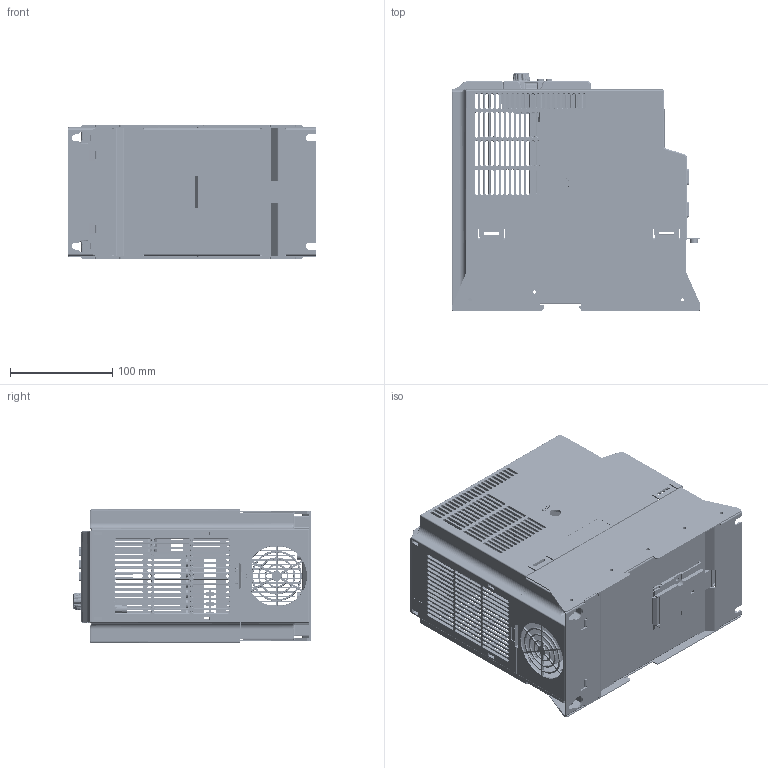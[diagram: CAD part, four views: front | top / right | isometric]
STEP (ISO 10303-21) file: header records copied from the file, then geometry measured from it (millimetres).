
FILE_DESCRIPTION((''),'2;1');
FILE_NAME('VFC5610-7K50-3P4-MNA-XX-NNNNN-N','2023-03-27T16:58:58',('ZUX1XI'),(''),'CREO PARAMETRIC BY PTC INC, 2021072','CREO PARAMETRIC BY PTC INC, 2021072','');
FILE_SCHEMA(('AUTOMOTIVE_DESIGN { 1 0 10303 214 1 1 1 1 }'));
Products named in the file (32): VFCX610-5P5KW__BASE_2_1_1_1; VFCX610-5P5KW_BLACK-PLATE_1_1_1; VFCX610-5P5KW_BASE_1_1_1_1; VFCX610_DIN_COVER_1_1_1_1; VFCX610_DIN_SPRING-PART_1_1_1_1; VFCX610-DIN_1_1_1_1; VFCX610-7P5KW_HEATSINK_1_1_1_1; VFC5610_5K5KW_CASE_RE_1_1_1_1; VFCX610-5P5KW_FAN-COVER_DOWN_1_; VFCX610-5P5KW_FAN_DOWN_1_1_1_1; 00_VFCX610-7P5KW_1_1_1_1; VFCX610-E_HOUSING_1_1_1; VFCX610_5_5_7_5KW_E_HOUSING_1_1; PL_EFC5610_IOCAE_CONVER_2_1_1_1; CPU_CONNECTOR-14P_1_1_1_1; 548190519_1_1_1_1; 1155590000_1_1_1_1; LK_YCP06_1_ASM_1_1_1; 01-IOBACK_CASE_1_1_1_1; 01-IOCASE_1_ASM_1_1_1; 01-IOCASE_1_ASM_1_1; 01_DISPLAYCASE_00_1_1_1_1; LED_00_1_1_1_1; DISPLAY_PCB_00_1_ASM_1_1_1; BACK_CASE1_00_1_1_1_1; R911330333_FOLIE_00_1_1_1_1; BUUTTON_00_1_1_1_1; XUAN_NIU_00_1_1_1_1; 02-DISPLAY-CASE_00_1_ASM_1_1_1; 02-DISPLAY-CASE_00_1_ASM_1_1; VFC5610-7K50-3P4-MNA-XX-NNNNN_1; VFC5610-7K50-3P4-MNA-XX-NNNNN-N
Assembly tree (31 placements, depth 7):
  VFC5610-7K50-3P4-MNA-XX-NNNNN-N
    VFC5610-7K50-3P4-MNA-XX-NNNNN_1
      VFCX610_5_5_7_5KW_E_HOUSING_1_1
        VFCX610-E_HOUSING_1_1_1
          00_VFCX610-7P5KW_1_1_1_1
            VFCX610-5P5KW_BASE_1_1_1_1
              VFCX610-5P5KW__BASE_2_1_1_1
              VFCX610-5P5KW_BLACK-PLATE_1_1_1
            VFCX610-DIN_1_1_1_1
              VFCX610_DIN_COVER_1_1_1_1
              VFCX610_DIN_SPRING-PART_1_1_1_1
            VFCX610-7P5KW_HEATSINK_1_1_1_1
            VFC5610_5K5KW_CASE_RE_1_1_1_1
            VFCX610-5P5KW_FAN_DOWN_1_1_1_1
              VFCX610-5P5KW_FAN-COVER_DOWN_1_
      01-IOCASE_1_ASM_1_1
        01-IOCASE_1_ASM_1_1_1
          PL_EFC5610_IOCAE_CONVER_2_1_1_1
          LK_YCP06_1_ASM_1_1_1
            CPU_CONNECTOR-14P_1_1_1_1
            548190519_1_1_1_1
            1155590000_1_1_1_1
          01-IOBACK_CASE_1_1_1_1
      02-DISPLAY-CASE_00_1_ASM_1_1
        02-DISPLAY-CASE_00_1_ASM_1_1_1
          01_DISPLAYCASE_00_1_1_1_1
          DISPLAY_PCB_00_1_ASM_1_1_1
            LED_00_1_1_1_1
          BACK_CASE1_00_1_1_1_1
          R911330333_FOLIE_00_1_1_1_1
          BUUTTON_00_1_1_1_1
          XUAN_NIU_00_1_1_1_1
Bounding box: 243 x 232.15 x 130 mm (x, y, z)
Volume: 40854.5 mm3; surface area: 932751.7 mm2
Topology: 10 solids, 3941 shells, 8081 faces, 32826 edges, 28703 vertices
Faces by surface type: plane 4217, cylinder 2182, torus 710, bspline 385, cone 383, sphere 148, extrusion 56
Entity records: 537615 total; most frequent: CARTESIAN_POINT 136914, DIRECTION 50636, ORIENTED_EDGE 43793, PRESENTATION_STYLE_ASSIGNMENT 37684, STYLED_ITEM 36607, CURVE_STYLE 32672, EDGE_CURVE 32672, VERTEX_POINT 28703
